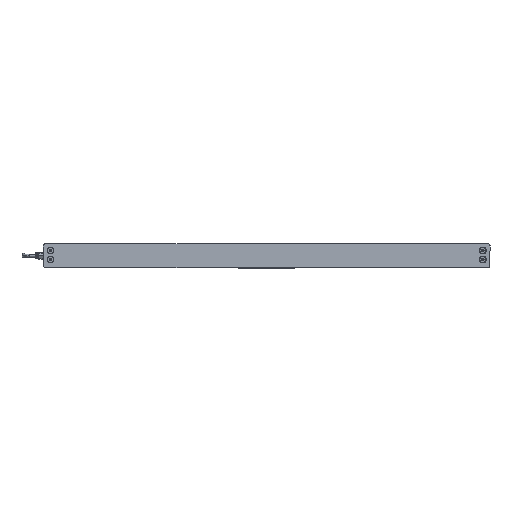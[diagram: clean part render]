
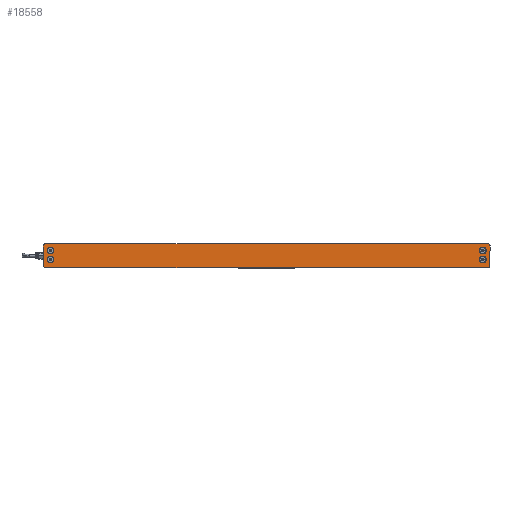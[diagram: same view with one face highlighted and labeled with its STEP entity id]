
A CAD part, left-side view. The second image highlights one B-rep face of the part: STEP entity #18558.
In plain terms, the highlighted planar face has unit normal (-1, 0, 0) as drawn and (0, 0, -1) by its records, which use the part's own axes.
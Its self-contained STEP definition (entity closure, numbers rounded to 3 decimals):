
#11 = DIRECTION ( 'NONE',  ( 0., 1., 0. ) ) ;
#65 = FACE_BOUND ( 'NONE', #12395, .T. ) ;
#546 = CARTESIAN_POINT ( 'NONE',  ( 364., -20., 0. ) ) ;
#738 = DIRECTION ( 'NONE',  ( 0., 0., 1. ) ) ;
#755 = CARTESIAN_POINT ( 'NONE',  ( -361.9, -6.3, 0. ) ) ;
#756 = VERTEX_POINT ( 'NONE', #1675 ) ;
#1675 = CARTESIAN_POINT ( 'NONE',  ( -350.7, -6.3, 0. ) ) ;
#1990 = EDGE_CURVE ( 'NONE', #2169, #16065, #8761, .T. ) ;
#2021 = DIRECTION ( 'NONE',  ( 0., 0., -1. ) ) ;
#2048 = VERTEX_POINT ( 'NONE', #6875 ) ;
#2152 = EDGE_CURVE ( 'NONE', #3958, #20490, #25352, .T. ) ;
#2169 = VERTEX_POINT ( 'NONE', #15241 ) ;
#2424 = DIRECTION ( 'NONE',  ( -1., 0., 0. ) ) ;
#2592 = ORIENTED_EDGE ( 'NONE', *, *, #3589, .F. ) ;
#2886 = DIRECTION ( 'NONE',  ( 0., 0., -1. ) ) ;
#3076 = EDGE_LOOP ( 'NONE', ( #23698, #10058 ) ) ;
#3253 = CIRCLE ( 'NONE', #24992, 5.6 ) ;
#3589 = EDGE_CURVE ( 'NONE', #756, #13697, #18493, .T. ) ;
#3648 = EDGE_LOOP ( 'NONE', ( #11646, #7791 ) ) ;
#3756 = FACE_OUTER_BOUND ( 'NONE', #9287, .T. ) ;
#3934 = VERTEX_POINT ( 'NONE', #18266 ) ;
#3958 = VERTEX_POINT ( 'NONE', #23753 ) ;
#4113 = ORIENTED_EDGE ( 'NONE', *, *, #11929, .F. ) ;
#4143 = DIRECTION ( 'NONE',  ( -1., 0., 0. ) ) ;
#4219 = CARTESIAN_POINT ( 'NONE',  ( -361.9, 8.5, 0. ) ) ;
#4331 = DIRECTION ( 'NONE',  ( -1., 0., 0. ) ) ;
#4365 = DIRECTION ( 'NONE',  ( 0., 0., -1. ) ) ;
#4395 = EDGE_CURVE ( 'NONE', #7741, #2169, #23858, .T. ) ;
#4440 = AXIS2_PLACEMENT_3D ( 'NONE', #9734, #2021, #23523 ) ;
#4673 = VERTEX_POINT ( 'NONE', #12004 ) ;
#4957 = CIRCLE ( 'NONE', #13305, 4. ) ;
#5438 = DIRECTION ( 'NONE',  ( 1., 0., 0. ) ) ;
#5494 = VERTEX_POINT ( 'NONE', #22667 ) ;
#5680 = ORIENTED_EDGE ( 'NONE', *, *, #4395, .F. ) ;
#6399 = VECTOR ( 'NONE', #11, 1000. ) ;
#6631 = DIRECTION ( 'NONE',  ( -1., 0., 0. ) ) ;
#6833 = DIRECTION ( 'NONE',  ( -1., 0., 0. ) ) ;
#6875 = CARTESIAN_POINT ( 'NONE',  ( 350.7, -6.3, 0. ) ) ;
#6877 = DIRECTION ( 'NONE',  ( 0., 0., 1. ) ) ;
#7711 = CARTESIAN_POINT ( 'NONE',  ( -350.7, 8.5, 0. ) ) ;
#7741 = VERTEX_POINT ( 'NONE', #22443 ) ;
#7791 = ORIENTED_EDGE ( 'NONE', *, *, #23580, .F. ) ;
#7794 = CARTESIAN_POINT ( 'NONE',  ( -364., -20., 0. ) ) ;
#8658 = CARTESIAN_POINT ( 'NONE',  ( -368., 16., 0. ) ) ;
#8687 = CARTESIAN_POINT ( 'NONE',  ( 361.9, 8.5, 0. ) ) ;
#8761 = CIRCLE ( 'NONE', #12091, 4. ) ;
#8795 = AXIS2_PLACEMENT_3D ( 'NONE', #10737, #23071, #6833 ) ;
#8897 = CARTESIAN_POINT ( 'NONE',  ( -356.3, 8.5, 0. ) ) ;
#9152 = AXIS2_PLACEMENT_3D ( 'NONE', #22579, #14568, #10891 ) ;
#9287 = EDGE_LOOP ( 'NONE', ( #19387, #5680, #16454, #17436, #17697, #4113, #21813, #9424 ) ) ;
#9424 = ORIENTED_EDGE ( 'NONE', *, *, #24087, .F. ) ;
#9426 = DIRECTION ( 'NONE',  ( 1., 0., 0. ) ) ;
#9500 = CARTESIAN_POINT ( 'NONE',  ( 361.9, -6.3, 0. ) ) ;
#9627 = VERTEX_POINT ( 'NONE', #8658 ) ;
#9734 = CARTESIAN_POINT ( 'NONE',  ( 356.3, -6.3, 0. ) ) ;
#9798 = EDGE_CURVE ( 'NONE', #3934, #3958, #10652, .T. ) ;
#9835 = CIRCLE ( 'NONE', #4440, 5.6 ) ;
#9930 = CIRCLE ( 'NONE', #11615, 5.6 ) ;
#10058 = ORIENTED_EDGE ( 'NONE', *, *, #16109, .F. ) ;
#10157 = CARTESIAN_POINT ( 'NONE',  ( -368., -16., 0. ) ) ;
#10453 = EDGE_LOOP ( 'NONE', ( #12346, #12625 ) ) ;
#10467 = CIRCLE ( 'NONE', #25131, 5.6 ) ;
#10512 = DIRECTION ( 'NONE',  ( 0., 0., -1. ) ) ;
#10652 = CIRCLE ( 'NONE', #17390, 4. ) ;
#10737 = CARTESIAN_POINT ( 'NONE',  ( 356.3, 8.5, 0. ) ) ;
#10794 = CARTESIAN_POINT ( 'NONE',  ( 364., 20., 0. ) ) ;
#10852 = DIRECTION ( 'NONE',  ( -1., 0., 0. ) ) ;
#10891 = DIRECTION ( 'NONE',  ( -1., 0., 0. ) ) ;
#11615 = AXIS2_PLACEMENT_3D ( 'NONE', #22328, #10512, #18542 ) ;
#11646 = ORIENTED_EDGE ( 'NONE', *, *, #20208, .F. ) ;
#11929 = EDGE_CURVE ( 'NONE', #9627, #3934, #20018, .T. ) ;
#12004 = CARTESIAN_POINT ( 'NONE',  ( 350.7, 8.5, 0. ) ) ;
#12091 = AXIS2_PLACEMENT_3D ( 'NONE', #14610, #13140, #6631 ) ;
#12252 = VECTOR ( 'NONE', #5438, 1000. ) ;
#12346 = ORIENTED_EDGE ( 'NONE', *, *, #24045, .F. ) ;
#12395 = EDGE_LOOP ( 'NONE', ( #14921, #2592 ) ) ;
#12458 = VERTEX_POINT ( 'NONE', #7711 ) ;
#12625 = ORIENTED_EDGE ( 'NONE', *, *, #25174, .F. ) ;
#13140 = DIRECTION ( 'NONE',  ( 0., 0., 1. ) ) ;
#13305 = AXIS2_PLACEMENT_3D ( 'NONE', #25814, #13358, #9426 ) ;
#13358 = DIRECTION ( 'NONE',  ( 0., 0., 1. ) ) ;
#13402 = VECTOR ( 'NONE', #25764, 1000. ) ;
#13697 = VERTEX_POINT ( 'NONE', #755 ) ;
#13736 = CARTESIAN_POINT ( 'NONE',  ( -364., -16., 0. ) ) ;
#14056 = CARTESIAN_POINT ( 'NONE',  ( 364., 16., 0. ) ) ;
#14203 = FACE_BOUND ( 'NONE', #3648, .T. ) ;
#14547 = AXIS2_PLACEMENT_3D ( 'NONE', #14056, #22067, #4143 ) ;
#14552 = DIRECTION ( 'NONE',  ( -1., 0., 0. ) ) ;
#14568 = DIRECTION ( 'NONE',  ( 0., 0., -1. ) ) ;
#14610 = CARTESIAN_POINT ( 'NONE',  ( 364., 16., 0. ) ) ;
#14921 = ORIENTED_EDGE ( 'NONE', *, *, #17883, .F. ) ;
#15070 = DIRECTION ( 'NONE',  ( 0., 0., -1. ) ) ;
#15118 = DIRECTION ( 'NONE',  ( -1., 0., 0. ) ) ;
#15241 = CARTESIAN_POINT ( 'NONE',  ( 368., 16., 0. ) ) ;
#15249 = CIRCLE ( 'NONE', #22402, 4. ) ;
#15963 = EDGE_CURVE ( 'NONE', #5494, #9627, #15249, .T. ) ;
#16065 = VERTEX_POINT ( 'NONE', #10794 ) ;
#16109 = EDGE_CURVE ( 'NONE', #24197, #2048, #9835, .T. ) ;
#16454 = ORIENTED_EDGE ( 'NONE', *, *, #20872, .F. ) ;
#16749 = CIRCLE ( 'NONE', #8795, 5.6 ) ;
#17390 = AXIS2_PLACEMENT_3D ( 'NONE', #13736, #738, #4331 ) ;
#17436 = ORIENTED_EDGE ( 'NONE', *, *, #2152, .F. ) ;
#17697 = ORIENTED_EDGE ( 'NONE', *, *, #9798, .F. ) ;
#17774 = LINE ( 'NONE', #23537, #13402 ) ;
#17883 = EDGE_CURVE ( 'NONE', #13697, #756, #3253, .T. ) ;
#18037 = FACE_BOUND ( 'NONE', #10453, .T. ) ;
#18197 = DIRECTION ( 'NONE',  ( 0., -1., 0. ) ) ;
#18266 = CARTESIAN_POINT ( 'NONE',  ( -368., -16., 0. ) ) ;
#18493 = CIRCLE ( 'NONE', #24797, 5.6 ) ;
#18542 = DIRECTION ( 'NONE',  ( -1., 0., 0. ) ) ;
#18558 = ADVANCED_FACE ( 'NONE', ( #14203, #21677, #18037, #65, #3756 ), #19727, .T. ) ;
#19361 = EDGE_CURVE ( 'NONE', #2048, #24197, #21699, .T. ) ;
#19387 = ORIENTED_EDGE ( 'NONE', *, *, #1990, .F. ) ;
#19727 = PLANE ( 'NONE',  #14547 ) ;
#19850 = CARTESIAN_POINT ( 'NONE',  ( -356.3, -6.3, 0. ) ) ;
#20018 = LINE ( 'NONE', #10157, #24985 ) ;
#20054 = CARTESIAN_POINT ( 'NONE',  ( 368., -16., 0. ) ) ;
#20208 = EDGE_CURVE ( 'NONE', #4673, #20246, #9930, .T. ) ;
#20246 = VERTEX_POINT ( 'NONE', #8687 ) ;
#20490 = VERTEX_POINT ( 'NONE', #546 ) ;
#20872 = EDGE_CURVE ( 'NONE', #20490, #7741, #4957, .T. ) ;
#21677 = FACE_BOUND ( 'NONE', #3076, .T. ) ;
#21699 = CIRCLE ( 'NONE', #9152, 5.6 ) ;
#21813 = ORIENTED_EDGE ( 'NONE', *, *, #15963, .F. ) ;
#21824 = CIRCLE ( 'NONE', #25163, 5.6 ) ;
#22067 = DIRECTION ( 'NONE',  ( 0., 0., -1. ) ) ;
#22328 = CARTESIAN_POINT ( 'NONE',  ( 356.3, 8.5, 0. ) ) ;
#22402 = AXIS2_PLACEMENT_3D ( 'NONE', #24961, #6877, #15118 ) ;
#22443 = CARTESIAN_POINT ( 'NONE',  ( 368., -16., 0. ) ) ;
#22579 = CARTESIAN_POINT ( 'NONE',  ( 356.3, -6.3, 0. ) ) ;
#22667 = CARTESIAN_POINT ( 'NONE',  ( -364., 20., 0. ) ) ;
#23071 = DIRECTION ( 'NONE',  ( 0., 0., -1. ) ) ;
#23523 = DIRECTION ( 'NONE',  ( -1., 0., 0. ) ) ;
#23537 = CARTESIAN_POINT ( 'NONE',  ( -364., 20., 0. ) ) ;
#23580 = EDGE_CURVE ( 'NONE', #20246, #4673, #16749, .T. ) ;
#23698 = ORIENTED_EDGE ( 'NONE', *, *, #19361, .F. ) ;
#23753 = CARTESIAN_POINT ( 'NONE',  ( -364., -20., 0. ) ) ;
#23808 = VERTEX_POINT ( 'NONE', #4219 ) ;
#23858 = LINE ( 'NONE', #20054, #6399 ) ;
#24045 = EDGE_CURVE ( 'NONE', #23808, #12458, #10467, .T. ) ;
#24087 = EDGE_CURVE ( 'NONE', #16065, #5494, #17774, .T. ) ;
#24136 = CARTESIAN_POINT ( 'NONE',  ( -356.3, -6.3, 0. ) ) ;
#24197 = VERTEX_POINT ( 'NONE', #9500 ) ;
#24437 = DIRECTION ( 'NONE',  ( 0., 0., -1. ) ) ;
#24524 = DIRECTION ( 'NONE',  ( -1., 0., 0. ) ) ;
#24797 = AXIS2_PLACEMENT_3D ( 'NONE', #19850, #24437, #2424 ) ;
#24961 = CARTESIAN_POINT ( 'NONE',  ( -364., 16., 0. ) ) ;
#24985 = VECTOR ( 'NONE', #18197, 1000. ) ;
#24992 = AXIS2_PLACEMENT_3D ( 'NONE', #24136, #4365, #14552 ) ;
#25048 = CARTESIAN_POINT ( 'NONE',  ( -356.3, 8.5, 0. ) ) ;
#25131 = AXIS2_PLACEMENT_3D ( 'NONE', #8897, #2886, #10852 ) ;
#25163 = AXIS2_PLACEMENT_3D ( 'NONE', #25048, #15070, #24524 ) ;
#25174 = EDGE_CURVE ( 'NONE', #12458, #23808, #21824, .T. ) ;
#25352 = LINE ( 'NONE', #7794, #12252 ) ;
#25764 = DIRECTION ( 'NONE',  ( -1., 0., 0. ) ) ;
#25814 = CARTESIAN_POINT ( 'NONE',  ( 364., -16., 0. ) ) ;
